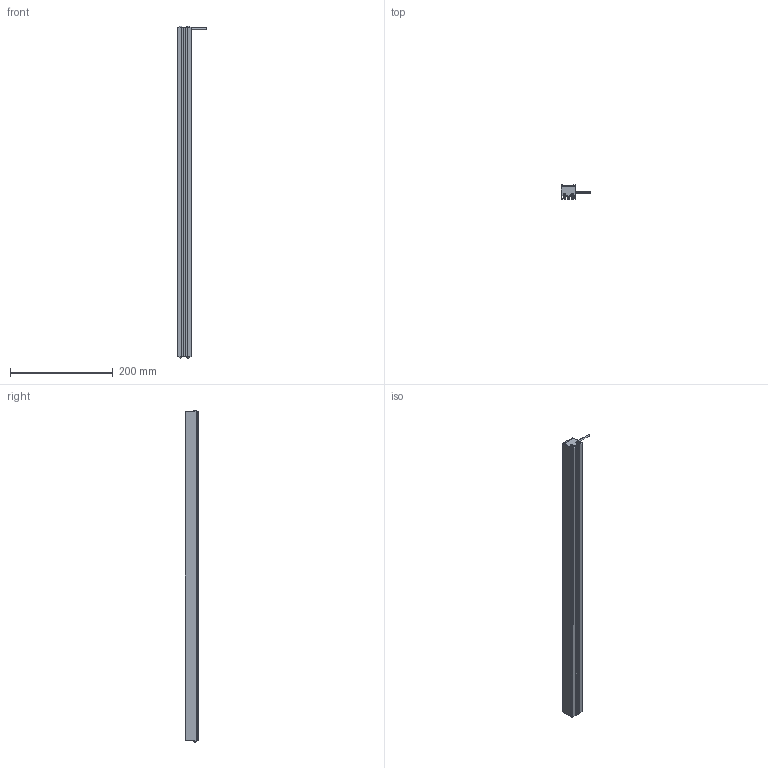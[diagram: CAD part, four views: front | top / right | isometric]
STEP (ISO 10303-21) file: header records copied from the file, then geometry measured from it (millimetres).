
FILE_DESCRIPTION((''),'2;1');
FILE_NAME('MV-LLDS-642-28_ASM','2020-12-30T',('Administrator'),(''),'PRO/ENGINEER BY PARAMETRIC TECHNOLOGY CORPORATION, 2010100','PRO/ENGINEER BY PARAMETRIC TECHNOLOGY CORPORATION, 2010100','');
FILE_SCHEMA(('CONFIG_CONTROL_DESIGN'));
Length unit declared in the file: millimetre
Products named in the file (3): BL-4_2_; M3-5_3; MV-LLDS-642-28_ASM
Assembly tree (5 placements, depth 2):
  MV-LLDS-642-28_ASM
    BL-4_2_
    M3-5_3  x4
Bounding box: 58 x 27 x 646.68 mm (x, y, z)
Volume: 402133.8 mm3; surface area: 149819.7 mm2
Topology: 5 solids, 13 shells, 303 faces, 802 edges, 516 vertices
Faces by surface type: plane 185, cylinder 70, cone 16, bspline 16, torus 8, sphere 8
Entity records: 6720 total; most frequent: CARTESIAN_POINT 1432, ORIENTED_EDGE 1074, DIRECTION 1069, EDGE_CURVE 547, VECTOR 397, LINE 397, VERTEX_POINT 357, AXIS2_PLACEMENT_3D 336
